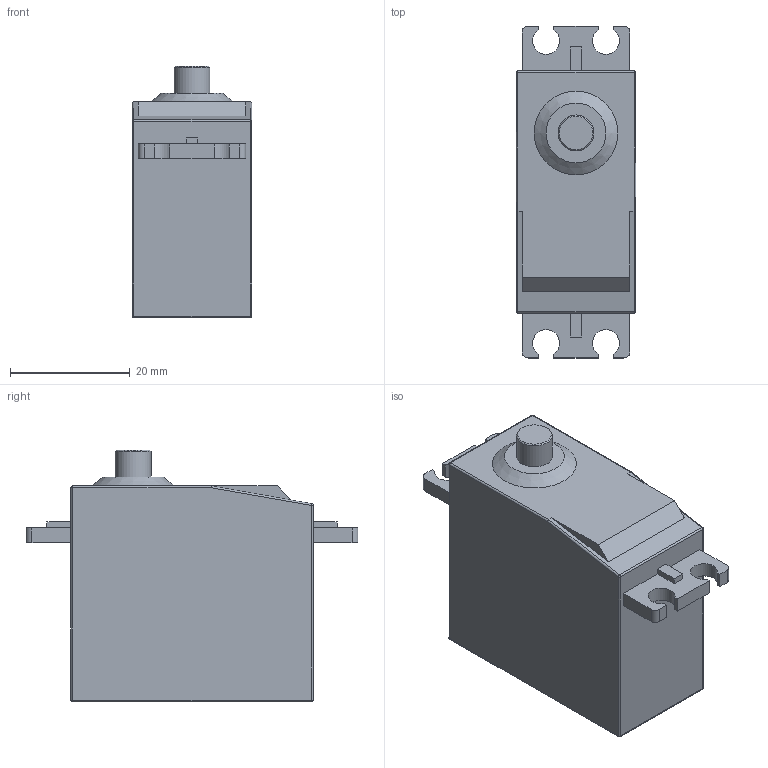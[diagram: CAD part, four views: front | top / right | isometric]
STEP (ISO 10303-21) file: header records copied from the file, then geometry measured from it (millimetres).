
FILE_DESCRIPTION(/* description */ ('STEP AP242 Edition 2','CAx-IF Rec.Pracs.---Representation and Presentation of Product Manufacturing Information (PMI)---4.0---2014-10-13','CAx-IF Rec.Pracs.---3D Tessellated Geometry---0.4---2014-09-14','2;1','CAx-IF Rec.Pracs.---User Defined Attributes---1.5---2016-08-15'),/* implementation_level */ '2;1');
FILE_NAME(/* name */ 'Assembly 1 - 56',/* time_stamp */ '2026-08-25T12:54:10Z',/* author */ (''),/* organization */ (''),/* preprocessor_version */ 'ST-DEVELOPER v20',/* originating_system */ 'ONSHAPE BY PTC INC, 1.219',/* authorisation */ ' ');
FILE_SCHEMA (('AP242_MANAGED_MODEL_BASED_3D_ENGINEERING_MIM_LF { 1 0 10303 442 3 1 4 }'));
Length unit declared in the file: metre
Products named in the file (1): 56
Bounding box: 20 x 55.5 x 42.1 mm (x, y, z)
Volume: 29756.5 mm3; surface area: 6809.7 mm2
Topology: 1 solids, 1 shells, 774 faces, 2134 edges, 1408 vertices
Faces by surface type: plane 500, bspline 227, cylinder 37, sphere 8, cone 2
Full cylindrical faces by diameter (mm): 6 x1
Entity records: 25479 total; most frequent: CARTESIAN_POINT 7339, ORIENTED_EDGE 4244, DIRECTION 2818, EDGE_CURVE 2122, LINE 1564, VECTOR 1564, VERTEX_POINT 1407, EDGE_LOOP 831
